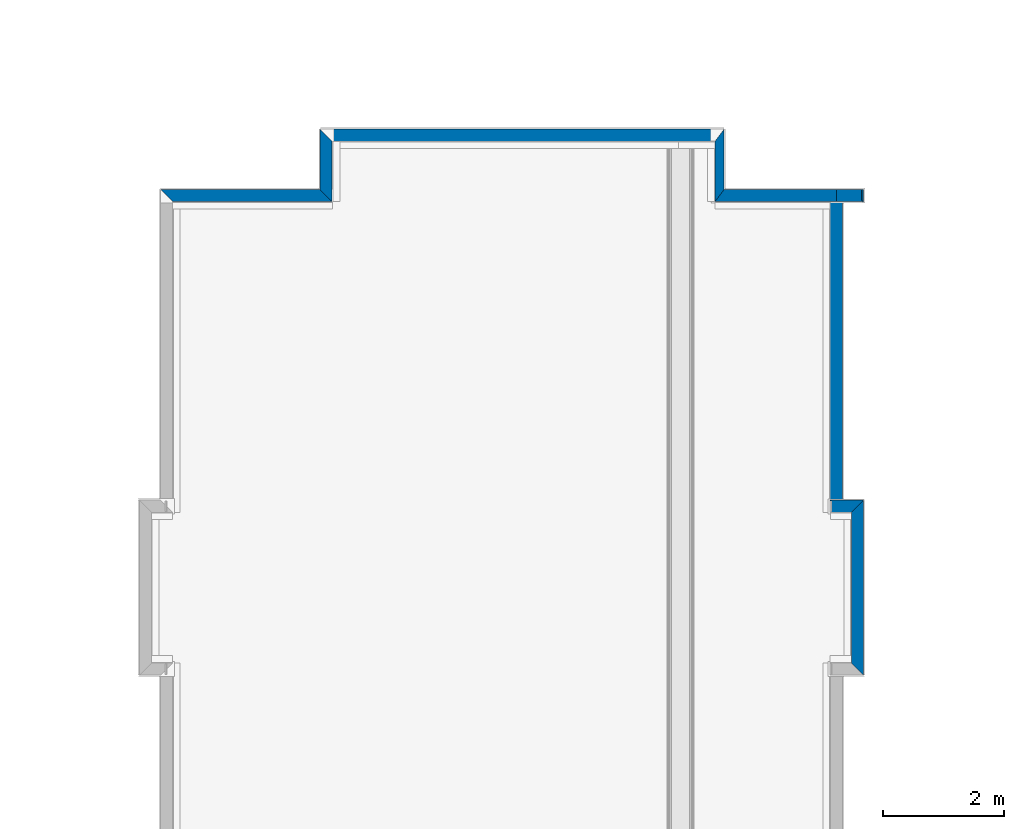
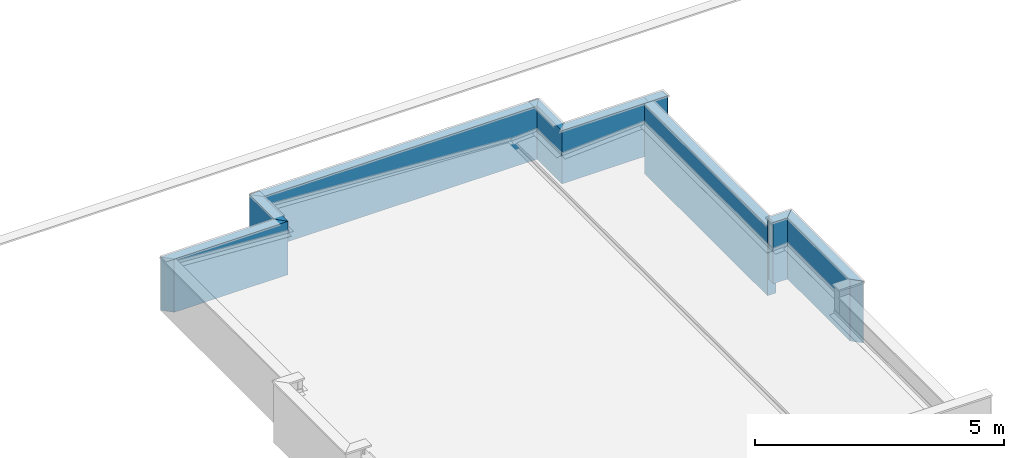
# One storey, part 8 of 25: 10 walls, 2 openings.
"""IFC4 building model written with IfcOpenShell, lengths in metres."""

from ifc_helpers import new_model, entity, si_unit, converted_unit, derived_unit, direction, frame, origin_with_axes, origin_2d_with_axis, place, context, subcontext, project, spatial, line, indexed_curve, rectangle, outline, extrude, polygons, source, transform, mapped, material, layer, layer_set, layer_usage, constituent, constituent_set, type_object, element, fill, save


model = new_model("IFC4")

# Units and contexts
model_context = context("Model", 3, precision=1e-05, world=origin_with_axes(), true_north=direction((0.0, 1.0)))
body_context = subcontext(model_context, "Body", "Model", "MODEL_VIEW")
ifc_project = project(units=[si_unit("LENGTHUNIT", "METRE"), si_unit("AREAUNIT", "SQUARE_METRE"), si_unit("VOLUMEUNIT", "CUBIC_METRE"), converted_unit("PLANEANGLEUNIT", "DEGREE", entity("IfcPlaneAngleMeasure", 0.0174532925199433), si_unit("PLANEANGLEUNIT", "RADIAN"), dimensions=[0, 0, 0, 0, 0, 0, 0]), converted_unit("TIMEUNIT", "Year", entity("IfcTimeMeasure", 31557600.0), si_unit("TIMEUNIT", "SECOND"), dimensions=[0, 0, 1, 0, 0, 0, 0]), si_unit("MASSUNIT", "GRAM", prefix="KILO"), si_unit("THERMODYNAMICTEMPERATUREUNIT", "DEGREE_CELSIUS"), si_unit("LUMINOUSINTENSITYUNIT", "LUMEN"), si_unit("ENERGYUNIT", "JOULE", prefix="MEGA"), derived_unit("THERMALCONDUCTANCEUNIT", [(si_unit("POWERUNIT", "WATT"), 1), (si_unit("LENGTHUNIT", "METRE"), -1), (si_unit("THERMODYNAMICTEMPERATUREUNIT", "KELVIN"), -1)]), derived_unit("SPECIFICHEATCAPACITYUNIT", [(si_unit("ENERGYUNIT", "JOULE"), 1), (si_unit("MASSUNIT", "GRAM", prefix="KILO"), -1), (si_unit("THERMODYNAMICTEMPERATUREUNIT", "KELVIN"), -1)]), derived_unit("MASSDENSITYUNIT", [(si_unit("MASSUNIT", "GRAM", prefix="KILO"), 1), (si_unit("VOLUMEUNIT", "CUBIC_METRE"), -1)])], contexts=[model_context])

# Site, building, storey
site_placement = place(None, origin_with_axes())
site = spatial("IfcSite", under=ifc_project, at=site_placement, Name="PADRÃO", CompositionType="ELEMENT")
building_placement = place(site_placement, origin_with_axes())
building = spatial("IfcBuilding", under=site, at=building_placement, Name="CRECHE PRÉ-ESCOLA TIPO 2", CompositionType="ELEMENT")
storey_placement = place(building_placement, frame((0.0, 0.0, 3.26), z_axis=(0.0, 0.0, 1.0), x_axis=(1.0, 0.0, 0.0)))
storey = spatial("IfcBuildingStorey", under=building, at=storey_placement, Name="COBERTURA", CompositionType="ELEMENT", Elevation=3.26)

# Walls
ifc_material_1 = material(Name="EI-REV-Pintura Acrílica Cor Branco Gelo")
ifc_layer_1 = layer(ifc_material_1, 0.015, ventilated="UNKNOWN", Name="EI-REV-Pintura Acrílica Cor Branco Gelo 1")
ifc_material_2 = material(Name="EI-REV-Massa Acrílica (externa)")
ifc_layer_2 = layer(ifc_material_2, 0.005, ventilated="UNKNOWN", Name="EI-REV-Massa Acrílica (externa) 1")
ifc_material_3 = material(Name="EI-REV-Massa única - Fachada")
ifc_layer_3 = layer(ifc_material_3, 0.005, ventilated="UNKNOWN", Name="EI-REV-Massa única - Fachada 1")
ifc_material_4 = material(Name="EI-REV-Chapisco (externo)")
ifc_layer_4 = layer(ifc_material_4, 0.005, ventilated="UNKNOWN", Name="EI-REV-Chapisco (externo) 1")
ifc_material_5 = material(Name="TIJOLO - CERAMICO 9x19x39 - espessura 15cm")
ifc_layer_5 = layer(ifc_material_5, 0.09, ventilated="UNKNOWN", Name="TIJOLO - CERAMICO 9x19x39 - espessura 15cm")
ifc_layer_6 = layer(ifc_material_4, 0.005, ventilated="UNKNOWN", Name="EI-REV-Chapisco (externo) 2")
ifc_layer_7 = layer(ifc_material_3, 0.005, ventilated="UNKNOWN", Name="EI-REV-Massa única - Fachada 2")
ifc_layer_8 = layer(ifc_material_2, 0.005, ventilated="UNKNOWN", Name="EI-REV-Massa Acrílica (externa) 2")
ifc_layer_9 = layer(ifc_material_1, 0.015, ventilated="UNKNOWN", Name="EI-REV-Pintura Acrílica Cor Branco Gelo 2")
ifc_layer_set_1 = layer_set([ifc_layer_1, ifc_layer_2, ifc_layer_3, ifc_layer_4, ifc_layer_5, ifc_layer_6, ifc_layer_7, ifc_layer_8, ifc_layer_9], Name="FNDE-PLAT_AL09-Pintura Branca")
ifc_layer_usage_1 = layer_usage(ifc_layer_set_1, "AXIS2", "NEGATIVE", 0.075)
wall_type_1 = type_object("IfcWallType", Name="FNDE-PLAT_AL09-Pintura Branca 150", PredefinedType="NOTDEFINED")
wall_1_placement = place(storey_placement, frame((-8.27504276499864, 40.8501561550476, 0.0), z_axis=(0.0, 0.0, 1.0), x_axis=(0.0, -1.0, 0.0)))
element("IfcWall", 1, at=wall_1_placement, inside=storey, type_object=wall_type_1, material=ifc_layer_usage_1, Name="AL09", PredefinedType="NOTDEFINED", context=body_context, shape_type="SweptSolid", body=[
    extrude(outline(indexed_curve([(0.100000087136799, -0.0749999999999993), (1.10000014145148, -0.0749999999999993), (0.900000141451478, 0.0749999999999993), (-0.100000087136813, 0.0749999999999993)], segments=[line(1, 2, 3, 4, 1)])), origin_with_axes(), (0.0, 0.0, 1.0), 1.31),
])
ifc_material_6 = material(Name="EI-REV-Pintura Acrílica Cor Cinza")
ifc_layer_10 = layer(ifc_material_6, 0.015, ventilated="UNKNOWN", Name="EI-REV-Pintura Acrílica Cor Cinza")
ifc_layer_11 = layer(ifc_material_2, 0.005, ventilated="UNKNOWN", Name="EI-REV-Massa Acrílica (externa) 1")
ifc_layer_12 = layer(ifc_material_3, 0.005, ventilated="UNKNOWN", Name="EI-REV-Massa única - Fachada 1")
ifc_layer_13 = layer(ifc_material_4, 0.005, ventilated="UNKNOWN", Name="EI-REV-Chapisco (externo) 1")
ifc_material_7 = material(Name="TIJOLO - CERAMICO 14x19x39 - espessura 20cm")
ifc_layer_14 = layer(ifc_material_7, 0.14, ventilated="UNKNOWN", Name="TIJOLO - CERAMICO 14x19x39 - espessura 20cm")
ifc_layer_15 = layer(ifc_material_4, 0.005, ventilated="UNKNOWN", Name="EI-REV-Chapisco (externo) 2")
ifc_layer_16 = layer(ifc_material_3, 0.005, ventilated="UNKNOWN", Name="EI-REV-Massa única - Fachada 2")
ifc_layer_17 = layer(ifc_material_2, 0.005, ventilated="UNKNOWN", Name="EI-REV-Massa Acrílica (externa) 2")
ifc_layer_18 = layer(ifc_material_1, 0.015, ventilated="UNKNOWN", Name="EI-REV-Pintura Acrílica Cor Branco Gelo")
ifc_layer_set_2 = layer_set([ifc_layer_10, ifc_layer_11, ifc_layer_12, ifc_layer_13, ifc_layer_14, ifc_layer_15, ifc_layer_16, ifc_layer_17, ifc_layer_18], Name="FNDE-PLAT_AL14-Pintura cinza-branca")
ifc_layer_usage_2 = layer_usage(ifc_layer_set_2, "AXIS2", "NEGATIVE", 0.1)
wall_type_2 = type_object("IfcWallType", Name="FNDE-PLAT_AL14-Pintura cinza-branca 200", PredefinedType="NOTDEFINED")
wall_2_placement = place(storey_placement, frame((-8.27504276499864, 39.8501560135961, 0.0), z_axis=(0.0, 0.0, 1.0), x_axis=(1.0, 0.0, 0.0)))
element("IfcWall", 2, at=wall_2_placement, inside=storey, type_object=wall_type_2, material=ifc_layer_usage_2, Name="AL14", PredefinedType="NOTDEFINED", context=body_context, shape_type="SweptSolid", body=[
    extrude(outline(indexed_curve([(-0.0749999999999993, -0.100000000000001), (1.93502487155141, -0.100000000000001), (1.93502487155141, 0.100000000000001), (0.0749999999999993, 0.100000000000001)], segments=[line(1, 2, 3, 4, 1)])), origin_with_axes(), (0.0, 0.0, 1.0), 1.31),
])
ifc_layer_19 = layer(ifc_material_1, 0.015, ventilated="UNKNOWN", Name="EI-REV-Pintura Acrílica Cor Branco Gelo 1")
ifc_layer_20 = layer(ifc_material_2, 0.005, ventilated="UNKNOWN", Name="EI-REV-Massa Acrílica (externa) 1")
ifc_layer_21 = layer(ifc_material_3, 0.005, ventilated="UNKNOWN", Name="EI-REV-Massa única - Fachada 1")
ifc_layer_22 = layer(ifc_material_4, 0.005, ventilated="UNKNOWN", Name="EI-REV-Chapisco (externo) 1")
ifc_layer_23 = layer(ifc_material_7, 0.14, ventilated="UNKNOWN", Name="TIJOLO - CERAMICO 14x19x39 - espessura 20cm")
ifc_layer_24 = layer(ifc_material_4, 0.005, ventilated="UNKNOWN", Name="EI-REV-Chapisco (externo) 2")
ifc_layer_25 = layer(ifc_material_3, 0.005, ventilated="UNKNOWN", Name="EI-REV-Massa única - Fachada 2")
ifc_layer_26 = layer(ifc_material_2, 0.005, ventilated="UNKNOWN", Name="EI-REV-Massa Acrílica (externa) 2")
ifc_layer_27 = layer(ifc_material_1, 0.015, ventilated="UNKNOWN", Name="EI-REV-Pintura Acrílica Cor Branco Gelo 2")
ifc_layer_set_3 = layer_set([ifc_layer_19, ifc_layer_20, ifc_layer_21, ifc_layer_22, ifc_layer_23, ifc_layer_24, ifc_layer_25, ifc_layer_26, ifc_layer_27], Name="FNDE-PLAT_AL14-Pintura Branca")
ifc_layer_usage_3 = layer_usage(ifc_layer_set_3, "AXIS2", "NEGATIVE", 0.1)
wall_type_3 = type_object("IfcWallType", Name="FNDE-PLAT_AL14-Pintura Branca 200", PredefinedType="NOTDEFINED")
wall_3_placement = place(storey_placement, frame((-14.800019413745, 40.8501485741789, 0.0), z_axis=(0.0, 0.0, 1.0), x_axis=(0.999999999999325, 1.16182311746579e-06, 0.0)))
element("IfcWall", 3, at=wall_3_placement, inside=storey, type_object=wall_type_3, material=ifc_layer_usage_3, Name="AL14", PredefinedType="NOTDEFINED", context=body_context, shape_type="SweptSolid", body=[
    extrude(outline(indexed_curve([(0.0999998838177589, -0.0999999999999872), (6.44997653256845, -0.0999999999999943), (6.59997676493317, 0.100000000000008), (-0.0999998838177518, 0.100000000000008)], segments=[line(1, 2, 3, 4, 1)])), origin_with_axes(), (0.0, 0.0, 1.0), 1.31),
])
ifc_layer_usage_4 = layer_usage(ifc_layer_set_3, "AXIS2", "NEGATIVE", 0.1)
wall_4_placement = place(storey_placement, frame((-14.800019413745, 39.8500904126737, 0.0), z_axis=(0.0, 0.0, 1.0), x_axis=(0.0, 1.0, 0.0)))
element("IfcWall", 4, at=wall_4_placement, inside=storey, type_object=wall_type_3, material=ifc_layer_usage_4, Name="AL14", PredefinedType="NOTDEFINED", context=body_context, shape_type="SweptSolid", body=[
    extrude(outline(indexed_curve([(-0.100000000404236, -0.100000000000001), (0.900058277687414, -0.100000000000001), (1.10005804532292, 0.0999999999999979), (0.100000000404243, 0.0999999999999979)], segments=[line(1, 2, 3, 4, 1)])), origin_with_axes(), (0.0, 0.0, 1.0), 1.31),
])
ifc_layer_usage_5 = layer_usage(ifc_layer_set_3, "AXIS2", "POSITIVE", -0.1)
wall_5_placement = place(storey_placement, frame((-6.33996330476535, 34.8000902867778, -0.410000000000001), z_axis=(0.0, 0.0, 1.0), x_axis=(-1.05996087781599e-05, 0.999999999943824, 0.0)))
element("IfcWall", 5, at=wall_5_placement, inside=storey, type_object=wall_type_3, material=ifc_layer_usage_5, Name="AL14", PredefinedType="NOTDEFINED", context=body_context, shape_type="SweptSolid", body=[
    extrude(outline(indexed_curve([(0.0, -0.0999999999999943), (4.95006466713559, -0.0999999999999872), (4.95006678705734, 0.100000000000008), (0.0, 0.100000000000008)], segments=[line(1, 2, 3, 4, 1)])), origin_with_axes(), (0.0, 0.0, 1.0), 1.72),
])

# Walls, opening
ifc_layer_28 = layer(ifc_material_6, 0.015, ventilated="UNKNOWN", Name="EI-REV-Pintura Acrílica Cor Cinza 1")
ifc_layer_29 = layer(ifc_material_2, 0.005, ventilated="UNKNOWN", Name="EI-REV-Massa Acrílica (externa) 1")
ifc_layer_30 = layer(ifc_material_3, 0.005, ventilated="UNKNOWN", Name="EI-REV-Massa única - Fachada 1")
ifc_layer_31 = layer(ifc_material_4, 0.005, ventilated="UNKNOWN", Name="EI-REV-Chapisco (externo) 1")
ifc_layer_32 = layer(ifc_material_7, 0.14, ventilated="UNKNOWN", Name="TIJOLO - CERAMICO 14x19x39 - espessura 20cm")
ifc_layer_33 = layer(ifc_material_4, 0.005, ventilated="UNKNOWN", Name="EI-REV-Chapisco (externo) 2")
ifc_layer_34 = layer(ifc_material_3, 0.005, ventilated="UNKNOWN", Name="EI-REV-Massa única - Fachada 2")
ifc_layer_35 = layer(ifc_material_2, 0.005, ventilated="UNKNOWN", Name="EI-REV-Massa Acrílica (externa) 2")
ifc_layer_36 = layer(ifc_material_6, 0.015, ventilated="UNKNOWN", Name="EI-REV-Pintura Acrílica Cor Cinza 2")
ifc_layer_set_4 = layer_set([ifc_layer_28, ifc_layer_29, ifc_layer_30, ifc_layer_31, ifc_layer_32, ifc_layer_33, ifc_layer_34, ifc_layer_35, ifc_layer_36], Name="FNDE-PLAT_AL14-Pintura cinza")
ifc_layer_usage_6 = layer_usage(ifc_layer_set_4, "AXIS2", "POSITIVE", -0.1)
wall_type_4 = type_object("IfcWallType", Name="FNDE-PLAT_AL14-Pintura cinza 200", PredefinedType="NOTDEFINED")
wall_6_placement = place(storey_placement, frame((-6.34001789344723, 39.8501560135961, 0.0), z_axis=(0.0, 0.0, 1.0), x_axis=(1.0, 0.0, 0.0)))
wall_6 = element("IfcWall", 6, at=wall_6_placement, inside=storey, type_object=wall_type_4, material=ifc_layer_usage_6, Name="AL14", PredefinedType="NOTDEFINED", context=body_context, shape_type="SweptSolid", body=[
    extrude(outline(indexed_curve([(0.0, -0.100000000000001), (0.450000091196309, -0.100000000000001), (0.450000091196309, 0.100000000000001), (0.0, 0.100000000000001)], segments=[line(1, 2, 3, 4, 1)])), origin_with_axes(), (0.0, 0.0, 1.0), 1.31),
])
opening_1_placement = place(wall_6_placement, frame((0.450000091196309, 0.0, 0.0), z_axis=(0.0, 0.0, 1.0), x_axis=(1.0, 0.0, 0.0)))
opening_1 = element("IfcOpeningElement", 7, at=opening_1_placement, cuts=wall_6, Name="AL14", context=body_context, shape_type="SweptSolid", body=[
    extrude(rectangle(XDim=0.200000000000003, YDim=0.0150000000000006, at=origin_2d_with_axis()), frame((-0.00750000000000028, 0.0, 0.0), z_axis=(0.0, 0.0, 1.0), x_axis=(0.0, -1.0, 0.0)), (0.0, 0.0, 1.0), 1.31),
    extrude(rectangle(XDim=0.185000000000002, YDim=0.00500000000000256, at=origin_2d_with_axis()), frame((-0.0174999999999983, 0.00750000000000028, 0.0), z_axis=(0.0, 0.0, 1.0), x_axis=(0.0, -1.0, 0.0)), (0.0, 0.0, 1.0), 1.31),
    extrude(rectangle(XDim=0.18, YDim=0.00499999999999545, at=origin_2d_with_axis()), frame((-0.0225000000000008, 0.00999999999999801, 0.0), z_axis=(0.0, 0.0, 1.0), x_axis=(0.0, -1.0, 0.0)), (0.0, 0.0, 1.0), 1.31),
])
ifc_constituent_1 = constituent(ifc_material_6, Name="EI-REV-Pintura Acrílica Cor Cinza")
ifc_constituent_2 = constituent(ifc_material_2, Name="EI-REV-Massa Acrílica (externa)")
ifc_constituent_3 = constituent(ifc_material_3, Name="EI-REV-Massa única - Fachada")
ifc_constituent_set = constituent_set(constituents=[ifc_constituent_1, ifc_constituent_2, ifc_constituent_3])
wall_type_5 = type_object("IfcWallType", Name="Arremate com Dobra Revest 27", PredefinedType="NOTDEFINED")
shared_shape = source(origin_with_axes(), body_context, "Body", "Tessellation", [
    polygons([(0.0, 0.0, 0.0), (0.0, -0.015, 0.0), (0.0, -0.015, 1.31), (0.0, 0.0, 1.31), (0.2, 0.0, 0.0), (0.2, -0.015, 0.0), (0.2, -0.015, 1.31), (0.2, 0.0, 1.31)], [[[1, 2, 3, 4]], [[5, 6, 2, 1]], [[6, 7, 3, 2]], [[7, 8, 4, 3]], [[8, 5, 1, 4]], [[5, 8, 7, 6]]], closed=True),
    polygons([(0.0, -0.015, 0.0), (0.0, -0.02, 0.0), (0.0, -0.02, 1.31), (0.0, -0.015, 1.31), (0.185, -0.015, 0.0), (0.185, -0.02, 0.0), (0.185, -0.02, 1.31), (0.185, -0.015, 1.31)], [[[1, 2, 3, 4]], [[5, 6, 2, 1]], [[6, 7, 3, 2]], [[7, 8, 4, 3]], [[8, 5, 1, 4]], [[5, 8, 7, 6]]], closed=True),
    polygons([(0.0, -0.02, 0.0), (0.0, -0.025, 0.0), (0.0, -0.025, 1.31), (0.0, -0.02, 1.31), (0.18, -0.02, 0.0), (0.18, -0.025, 0.0), (0.18, -0.025, 1.31), (0.18, -0.02, 1.31)], [[[1, 2, 3, 4]], [[5, 6, 2, 1]], [[6, 7, 3, 2]], [[7, 8, 4, 3]], [[8, 5, 1, 4]], [[5, 8, 7, 6]]], closed=True),
])
wall_7_placement = place(opening_1_placement, frame((0.0125000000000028, 0.0, 0.0), z_axis=(0.0, 0.0, 1.0), x_axis=(-1.0, 0.0, 0.0)))
wall_7 = element("IfcWall", 8, at=wall_7_placement, inside=storey, type_object=wall_type_5, material=ifc_constituent_set, Name="AL14", PredefinedType="NOTDEFINED", context=body_context, shape_type="MappedRepresentation", body=[
    mapped(shared_shape, transform((0.0125000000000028, -0.100000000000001, 0.0), x_axis=(0.0, 1.0, 0.0), y_axis=(-1.0, 0.0, 0.0), z_axis=(0.0, 0.0, 1.0))),
])
fill(opening_1, wall_7)

# Wall
ifc_layer_usage_7 = layer_usage(ifc_layer_set_4, "AXIS2", "NEGATIVE", 0.1)
wall_8_placement = place(storey_placement, frame((-17.4400505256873, 39.8500904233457, 0.0), z_axis=(0.0, 0.0, 1.0), x_axis=(1.0, -4.04236186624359e-09, 0.0)))
element("IfcWall", 9, at=wall_8_placement, inside=storey, type_object=wall_type_4, material=ifc_layer_usage_7, Name="AL14", PredefinedType="NOTDEFINED", context=body_context, shape_type="SweptSolid", body=[
    extrude(outline(indexed_curve([(0.10000000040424, -0.100000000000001), (2.74003111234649, -0.100000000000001), (2.54003111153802, 0.100000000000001), (-0.100000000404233, 0.100000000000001)], segments=[line(1, 2, 3, 4, 1)])), origin_with_axes(), (0.0, 0.0, 1.0), 1.31),
])

# Wall, opening
ifc_material_8 = material(Name="EI-REV-Pintura Acrílica Cor Azul Externa")
ifc_layer_37 = layer(ifc_material_8, 0.015, ventilated="UNKNOWN", Name="EI-REV-Pintura Acrílica Cor Azul Externa")
ifc_layer_38 = layer(ifc_material_2, 0.005, ventilated="UNKNOWN", Name="EI-REV-Massa Acrílica (externa) 1")
ifc_layer_39 = layer(ifc_material_3, 0.005, ventilated="UNKNOWN", Name="EI-REV-Massa única - Fachada 1")
ifc_layer_40 = layer(ifc_material_4, 0.005, ventilated="UNKNOWN", Name="EI-REV-Chapisco (externo) 1")
ifc_layer_41 = layer(ifc_material_7, 0.14, ventilated="UNKNOWN", Name="TIJOLO - CERAMICO 14x19x39 - espessura 20cm")
ifc_layer_42 = layer(ifc_material_4, 0.005, ventilated="UNKNOWN", Name="EI-REV-Chapisco (externo) 2")
ifc_layer_43 = layer(ifc_material_3, 0.005, ventilated="UNKNOWN", Name="EI-REV-Massa única - Fachada 2")
ifc_layer_44 = layer(ifc_material_2, 0.005, ventilated="UNKNOWN", Name="EI-REV-Massa Acrílica (externa) 2")
ifc_layer_45 = layer(ifc_material_1, 0.015, ventilated="UNKNOWN", Name="EI-REV-Pintura Acrílica Cor Branco Gelo")
ifc_layer_set_5 = layer_set([ifc_layer_37, ifc_layer_38, ifc_layer_39, ifc_layer_40, ifc_layer_41, ifc_layer_42, ifc_layer_43, ifc_layer_44, ifc_layer_45], Name="FNDE-PLAT_AL14-Pintura Azul - Branca")
ifc_layer_usage_8 = layer_usage(ifc_layer_set_5, "AXIS2", "NEGATIVE", 0.1)
wall_type_6 = type_object("IfcWallType", Name="FNDE-PLAT_AL14-Pintura Azul - Branca 200", PredefinedType="NOTDEFINED")
wall_9_placement = place(storey_placement, frame((-6.44017858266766, 34.7001952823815, 0.0), z_axis=(0.0, 0.0, 1.0), x_axis=(1.0, 0.0, 0.0)))
wall_9 = element("IfcWall", 10, at=wall_9_placement, inside=storey, type_object=wall_type_6, material=ifc_layer_usage_8, Name="AL14", PredefinedType="NOTDEFINED", context=body_context, shape_type="SweptSolid", body=[
    extrude(outline(indexed_curve([(0.0, -0.100000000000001), (0.350000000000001, -0.100000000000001), (0.550000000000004, 0.100000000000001), (0.0, 0.100000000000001)], segments=[line(1, 2, 3, 4, 1)])), origin_with_axes(), (0.0, 0.0, 1.0), 1.51),
])
opening_2_placement = place(wall_9_placement, origin_with_axes())
element("IfcOpeningElement", 11, at=opening_2_placement, cuts=wall_9, Name="AL14", ObjectType="Recess", context=body_context, shape_type="SweptSolid", body=[
    extrude(rectangle(XDim=0.185000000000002, YDim=0.0150000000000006, at=origin_2d_with_axis()), frame((0.00750000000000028, -0.00750000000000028, 0.0), z_axis=(0.0, 0.0, 1.0), x_axis=(0.0, 1.0, 0.0)), (0.0, 0.0, 1.0), 1.51),
    extrude(rectangle(XDim=0.170000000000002, YDim=0.00500000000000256, at=origin_2d_with_axis()), frame((0.0175000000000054, 0.0, 0.0), z_axis=(0.0, 0.0, 1.0), x_axis=(0.0, 1.0, 0.0)), (0.0, 0.0, 1.0), 1.51),
    extrude(rectangle(XDim=0.164999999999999, YDim=0.00499999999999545, at=origin_2d_with_axis()), frame((0.0225000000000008, 0.00249999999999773, 0.0), z_axis=(0.0, 0.0, 1.0), x_axis=(0.0, 1.0, 0.0)), (0.0, 0.0, 1.0), 1.51),
])

# Wall
ifc_layer_usage_9 = layer_usage(ifc_layer_set_5, "AXIS2", "NEGATIVE", 0.1)
wall_10_placement = place(storey_placement, frame((-5.99017858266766, 34.7001952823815, 0.0), z_axis=(0.0, 0.0, 1.0), x_axis=(0.0, -1.0, 0.0)))
element("IfcWall", 12, at=wall_10_placement, inside=storey, type_object=wall_type_6, material=ifc_layer_usage_9, Name="AL14", PredefinedType="NOTDEFINED", context=body_context, shape_type="SweptSolid", body=[
    extrude(outline(indexed_curve([(0.100000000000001, -0.100000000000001), (2.60006773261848, -0.100000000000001), (2.80006773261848, 0.100000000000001), (-0.100000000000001, 0.100000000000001)], segments=[line(1, 2, 3, 4, 1)])), origin_with_axes(), (0.0, 0.0, 1.0), 1.51),
])

save(model, "model.ifc")
